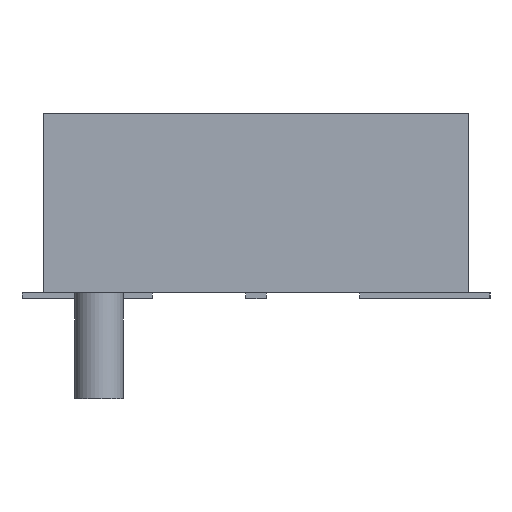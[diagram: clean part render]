
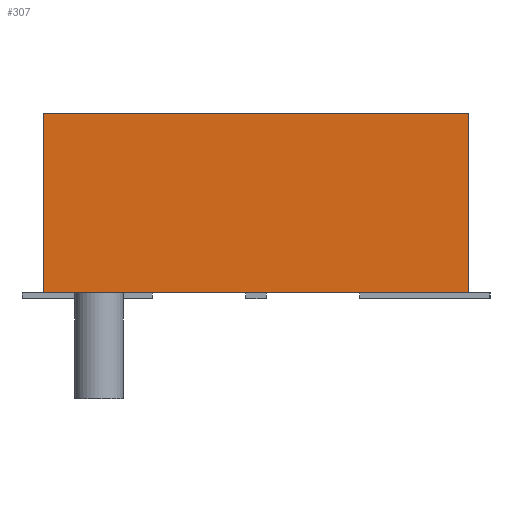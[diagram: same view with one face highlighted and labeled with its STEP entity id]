
A CAD part, left-side view. The second image highlights one B-rep face of the part: STEP entity #307.
In plain terms, the highlighted planar face has unit normal (-1, 0, 0).
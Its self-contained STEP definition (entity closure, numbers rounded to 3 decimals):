
#44 = EDGE_CURVE('',#45,#47,#49,.T.);
#45 = VERTEX_POINT('',#46);
#46 = CARTESIAN_POINT('',(-10.636,-3.62,0.));
#47 = VERTEX_POINT('',#48);
#48 = CARTESIAN_POINT('',(-10.636,-3.62,3.05));
#49 = SURFACE_CURVE('',#50,(#54,#66),.PCURVE_S1.);
#50 = LINE('',#51,#52);
#51 = CARTESIAN_POINT('',(-10.636,-3.62,0.));
#52 = VECTOR('',#53,1.);
#53 = DIRECTION('',(0.,0.,1.));
#54 = PCURVE('',#55,#60);
#55 = PLANE('',#56);
#56 = AXIS2_PLACEMENT_3D('',#57,#58,#59);
#57 = CARTESIAN_POINT('',(-10.636,-3.62,0.));
#58 = DIRECTION('',(0.,1.,0.));
#59 = DIRECTION('',(1.,0.,0.));
#60 = DEFINITIONAL_REPRESENTATION('',(#61),#65);
#61 = LINE('',#62,#63);
#62 = CARTESIAN_POINT('',(0.,0.));
#63 = VECTOR('',#64,1.);
#64 = DIRECTION('',(0.,-1.));
#65 = ( GEOMETRIC_REPRESENTATION_CONTEXT(2) 
PARAMETRIC_REPRESENTATION_CONTEXT() REPRESENTATION_CONTEXT('2D SPACE',''
  ) );
#66 = PCURVE('',#67,#72);
#67 = PLANE('',#68);
#68 = AXIS2_PLACEMENT_3D('',#69,#70,#71);
#69 = CARTESIAN_POINT('',(-10.636,3.62,0.));
#70 = DIRECTION('',(1.,0.,-0.));
#71 = DIRECTION('',(0.,-1.,0.));
#72 = DEFINITIONAL_REPRESENTATION('',(#73),#77);
#73 = LINE('',#74,#75);
#74 = CARTESIAN_POINT('',(7.24,0.));
#75 = VECTOR('',#76,1.);
#76 = DIRECTION('',(0.,-1.));
#77 = ( GEOMETRIC_REPRESENTATION_CONTEXT(2) 
PARAMETRIC_REPRESENTATION_CONTEXT() REPRESENTATION_CONTEXT('2D SPACE',''
  ) );
#95 = PLANE('',#96);
#96 = AXIS2_PLACEMENT_3D('',#97,#98,#99);
#97 = CARTESIAN_POINT('',(0.,0.,3.05));
#98 = DIRECTION('',(0.,0.,1.));
#99 = DIRECTION('',(1.,0.,0.));
#149 = PLANE('',#150);
#150 = AXIS2_PLACEMENT_3D('',#151,#152,#153);
#151 = CARTESIAN_POINT('',(0.,0.,0.));
#152 = DIRECTION('',(0.,0.,1.));
#153 = DIRECTION('',(1.,0.,0.));
#204 = PLANE('',#205);
#205 = AXIS2_PLACEMENT_3D('',#206,#207,#208);
#206 = CARTESIAN_POINT('',(10.636,3.62,0.));
#207 = DIRECTION('',(0.,-1.,0.));
#208 = DIRECTION('',(-1.,0.,0.));
#242 = VERTEX_POINT('',#243);
#243 = CARTESIAN_POINT('',(-10.636,3.62,3.05));
#264 = EDGE_CURVE('',#265,#242,#267,.T.);
#265 = VERTEX_POINT('',#266);
#266 = CARTESIAN_POINT('',(-10.636,3.62,0.));
#267 = SURFACE_CURVE('',#268,(#272,#279),.PCURVE_S1.);
#268 = LINE('',#269,#270);
#269 = CARTESIAN_POINT('',(-10.636,3.62,0.));
#270 = VECTOR('',#271,1.);
#271 = DIRECTION('',(0.,0.,1.));
#272 = PCURVE('',#204,#273);
#273 = DEFINITIONAL_REPRESENTATION('',(#274),#278);
#274 = LINE('',#275,#276);
#275 = CARTESIAN_POINT('',(21.272,0.));
#276 = VECTOR('',#277,1.);
#277 = DIRECTION('',(0.,-1.));
#278 = ( GEOMETRIC_REPRESENTATION_CONTEXT(2) 
PARAMETRIC_REPRESENTATION_CONTEXT() REPRESENTATION_CONTEXT('2D SPACE',''
  ) );
#279 = PCURVE('',#67,#280);
#280 = DEFINITIONAL_REPRESENTATION('',(#281),#285);
#281 = LINE('',#282,#283);
#282 = CARTESIAN_POINT('',(0.,0.));
#283 = VECTOR('',#284,1.);
#284 = DIRECTION('',(0.,-1.));
#285 = ( GEOMETRIC_REPRESENTATION_CONTEXT(2) 
PARAMETRIC_REPRESENTATION_CONTEXT() REPRESENTATION_CONTEXT('2D SPACE',''
  ) );
#307 = ADVANCED_FACE('',(#308),#67,.F.);
#308 = FACE_BOUND('',#309,.F.);
#309 = EDGE_LOOP('',(#310,#311,#332,#333));
#310 = ORIENTED_EDGE('',*,*,#264,.T.);
#311 = ORIENTED_EDGE('',*,*,#312,.T.);
#312 = EDGE_CURVE('',#242,#47,#313,.T.);
#313 = SURFACE_CURVE('',#314,(#318,#325),.PCURVE_S1.);
#314 = LINE('',#315,#316);
#315 = CARTESIAN_POINT('',(-10.636,3.62,3.05));
#316 = VECTOR('',#317,1.);
#317 = DIRECTION('',(0.,-1.,0.));
#318 = PCURVE('',#67,#319);
#319 = DEFINITIONAL_REPRESENTATION('',(#320),#324);
#320 = LINE('',#321,#322);
#321 = CARTESIAN_POINT('',(0.,-3.05));
#322 = VECTOR('',#323,1.);
#323 = DIRECTION('',(1.,0.));
#324 = ( GEOMETRIC_REPRESENTATION_CONTEXT(2) 
PARAMETRIC_REPRESENTATION_CONTEXT() REPRESENTATION_CONTEXT('2D SPACE',''
  ) );
#325 = PCURVE('',#95,#326);
#326 = DEFINITIONAL_REPRESENTATION('',(#327),#331);
#327 = LINE('',#328,#329);
#328 = CARTESIAN_POINT('',(-10.636,3.62));
#329 = VECTOR('',#330,1.);
#330 = DIRECTION('',(0.,-1.));
#331 = ( GEOMETRIC_REPRESENTATION_CONTEXT(2) 
PARAMETRIC_REPRESENTATION_CONTEXT() REPRESENTATION_CONTEXT('2D SPACE',''
  ) );
#332 = ORIENTED_EDGE('',*,*,#44,.F.);
#333 = ORIENTED_EDGE('',*,*,#334,.F.);
#334 = EDGE_CURVE('',#265,#45,#335,.T.);
#335 = SURFACE_CURVE('',#336,(#340,#347),.PCURVE_S1.);
#336 = LINE('',#337,#338);
#337 = CARTESIAN_POINT('',(-10.636,3.62,0.));
#338 = VECTOR('',#339,1.);
#339 = DIRECTION('',(0.,-1.,0.));
#340 = PCURVE('',#67,#341);
#341 = DEFINITIONAL_REPRESENTATION('',(#342),#346);
#342 = LINE('',#343,#344);
#343 = CARTESIAN_POINT('',(0.,0.));
#344 = VECTOR('',#345,1.);
#345 = DIRECTION('',(1.,0.));
#346 = ( GEOMETRIC_REPRESENTATION_CONTEXT(2) 
PARAMETRIC_REPRESENTATION_CONTEXT() REPRESENTATION_CONTEXT('2D SPACE',''
  ) );
#347 = PCURVE('',#149,#348);
#348 = DEFINITIONAL_REPRESENTATION('',(#349),#353);
#349 = LINE('',#350,#351);
#350 = CARTESIAN_POINT('',(-10.636,3.62));
#351 = VECTOR('',#352,1.);
#352 = DIRECTION('',(0.,-1.));
#353 = ( GEOMETRIC_REPRESENTATION_CONTEXT(2) 
PARAMETRIC_REPRESENTATION_CONTEXT() REPRESENTATION_CONTEXT('2D SPACE',''
  ) );
